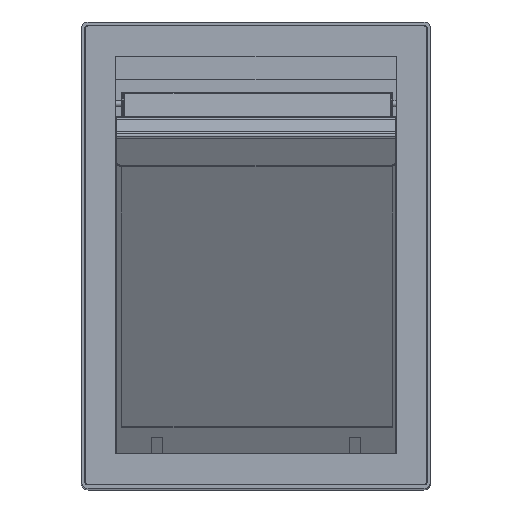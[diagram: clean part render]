
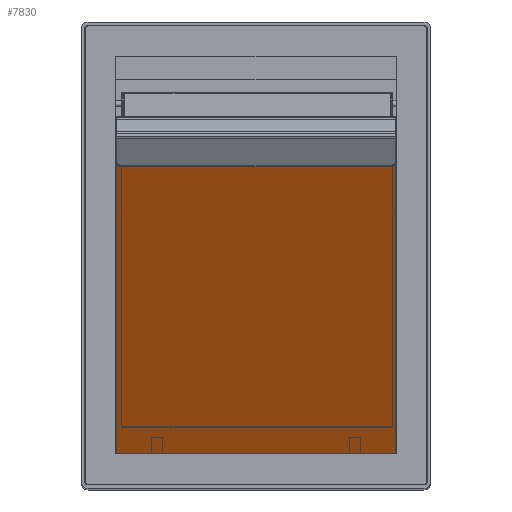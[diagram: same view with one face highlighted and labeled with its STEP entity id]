
A CAD part, top view. The second image highlights one B-rep face of the part: STEP entity #7830.
In plain terms, the highlighted planar face has unit normal (0, -0.507, 0.862) as drawn and (0, 0, 1) by its records, which use the part's own axes.
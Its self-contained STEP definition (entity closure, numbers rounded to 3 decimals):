
#218=PLANE('',#8356);
#433=FACE_OUTER_BOUND('',#880,.T.);
#880=EDGE_LOOP('',(#5288,#5289,#5290,#5291));
#1362=LINE('',#11638,#2094);
#1372=LINE('',#11670,#2104);
#1389=LINE('',#11708,#2121);
#1393=LINE('',#11717,#2125);
#2094=VECTOR('',#9202,10.);
#2104=VECTOR('',#9230,10.);
#2121=VECTOR('',#9263,10.);
#2125=VECTOR('',#9277,10.);
#3224=VERTEX_POINT('',#11635);
#3225=VERTEX_POINT('',#11637);
#3237=VERTEX_POINT('',#11667);
#3238=VERTEX_POINT('',#11669);
#4015=EDGE_CURVE('',#3225,#3224,#1362,.T.);
#4031=EDGE_CURVE('',#3238,#3237,#1372,.T.);
#4051=EDGE_CURVE('',#3225,#3237,#1389,.T.);
#4055=EDGE_CURVE('',#3238,#3224,#1393,.T.);
#5288=ORIENTED_EDGE('',*,*,#4051,.F.);
#5289=ORIENTED_EDGE('',*,*,#4015,.T.);
#5290=ORIENTED_EDGE('',*,*,#4055,.F.);
#5291=ORIENTED_EDGE('',*,*,#4031,.T.);
#7830=ADVANCED_FACE('',(#433),#218,.T.);
#8356=AXIS2_PLACEMENT_3D('',#11716,#9275,#9276);
#9202=DIRECTION('',(0.,-1.,0.));
#9230=DIRECTION('',(0.,1.,0.));
#9263=DIRECTION('',(1.,0.,0.));
#9275=DIRECTION('center_axis',(0.,0.,1.));
#9276=DIRECTION('ref_axis',(-1.,0.,0.));
#9277=DIRECTION('',(-1.,0.,0.));
#11635=CARTESIAN_POINT('',(-133.5,67.2,352.5));
#11637=CARTESIAN_POINT('',(-133.5,233.,352.5));
#11638=CARTESIAN_POINT('',(-133.5,192.5,352.5));
#11667=CARTESIAN_POINT('',(-13.5,233.,352.5));
#11669=CARTESIAN_POINT('',(-13.5,67.2,352.5));
#11670=CARTESIAN_POINT('',(-13.5,107.5,352.5));
#11708=CARTESIAN_POINT('',(-103.5,233.,352.5));
#11716=CARTESIAN_POINT('Origin',(-73.5,150.,352.5));
#11717=CARTESIAN_POINT('',(154.,67.2,352.5));
